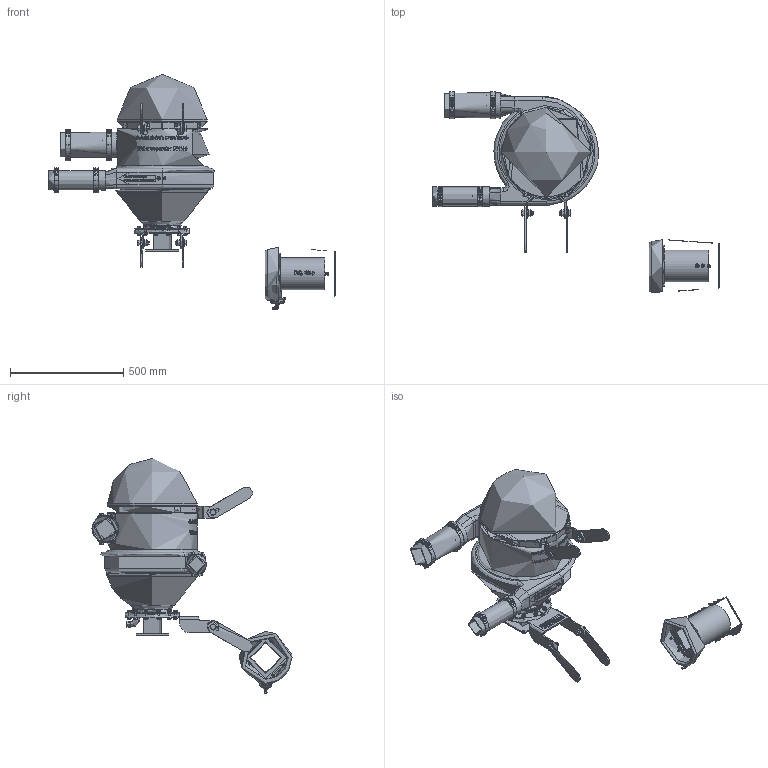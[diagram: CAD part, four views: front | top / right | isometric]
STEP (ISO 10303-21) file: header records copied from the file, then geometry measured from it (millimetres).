
FILE_DESCRIPTION(/* description */ (''),/* implementation_level */ '2;1');
FILE_NAME(/* name */ '1700115C.stp',/* time_stamp */ '2026-07-07T09:28:34+02:00',/* author */ ('DH'),/* organization */ (''),/* preprocessor_version */ 'ST-DEVELOPER v20',/* originating_system */ 'Autodesk Inventor 2025',/* authorisation */ '');
FILE_SCHEMA (('AUTOMOTIVE_DESIGN { 1 0 10303 214 3 1 1 }'));
Length unit declared in the file: millimetre
Products named in the file (1): 1700115C
Bounding box: 1263 x 882.51 x 1037.25 mm (x, y, z)
Topology: 10 solids, 11 shells, 10132 faces, 27141 edges, 17869 vertices
Faces by surface type: plane 5065, bspline 3732, cylinder 842, cone 330, torus 151, sphere 12
Full cylindrical faces by diameter (mm): 3.3 x4, 3.8 x4, 4.917 x8, 6 x25, 6.5 x8, 8 x25, 8.4 x11, 8.5 x11, 8.566 x1, 9.188 x2, 10 x23, 10.5 x2, 11 x1, 11.5 x1, 12 x10, 13 x16, 13.835 x1, 14 x2, 14.376 x1, 15.4 x2, 16 x7, 16.5 x2, 17 x31, 17.999 x1, 18.631 x1, 20 x2, 21.7 x1, 22.49 x4, 23.8 x1, 24 x4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
Entity records: 392496 total; most frequent: CARTESIAN_POINT 153519, ORIENTED_EDGE 54198, DIRECTION 35171, EDGE_CURVE 27099, VERTEX_POINT 17868, LINE 15085, VECTOR 15085, EDGE_LOOP 11193
